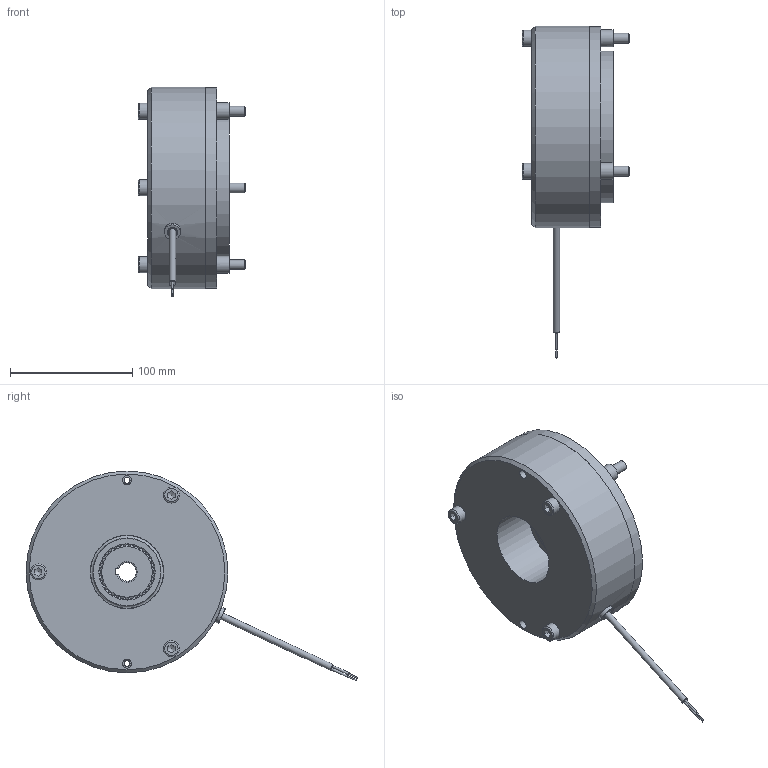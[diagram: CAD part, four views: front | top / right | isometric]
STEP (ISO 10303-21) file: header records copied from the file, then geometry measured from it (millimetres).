
FILE_DESCRIPTION(/* description */ (''),/* implementation_level */ '2;1');
FILE_NAME(/* name */ 'C:\SapWorkDir\Inventor\IP1\ConvertTempPath\5028677_IPT_000.ipt.stp',/* time_stamp */ '2020-09-16T16:31:32+02:00',/* author */ ('STRATE'),/* organization */ (''),/* preprocessor_version */ 'ST-DEVELOPER v17',/* originating_system */ 'Autodesk Inventor 2018',/* authorisation */ '');
FILE_SCHEMA (('AUTOMOTIVE_DESIGN { 1 0 10303 214 3 1 1 }'));
Length unit declared in the file: millimetre
Products named in the file (1): 5028677
Bounding box: 88 x 271.24 x 171.64 mm (x, y, z)
Volume: 1186351.6 mm3; surface area: 163560.4 mm2
Topology: 4 solids, 4 shells, 398 faces, 1133 edges, 769 vertices
Faces by surface type: cylinder 317, plane 56, cone 16, torus 9
Full cylindrical faces by diameter (mm): 1 x2, 1.85 x2, 4.917 x2, 5.3 x1, 6.6 x1, 7.3 x2, 8 x3, 8.2 x3, 8.4 x3, 10 x2, 13 x3, 13.2 x1, 13.8 x3, 14.5 x6, 60 x2, 79.5 x2, 80.1 x2, 124 x1, 164 x1, 165 x1
Entity records: 14583 total; most frequent: CARTESIAN_POINT 3733, ORIENTED_EDGE 2264, DIRECTION 2083, EDGE_CURVE 1132, AXIS2_PLACEMENT_3D 853, VERTEX_POINT 769, EDGE_LOOP 457, CIRCLE 454
